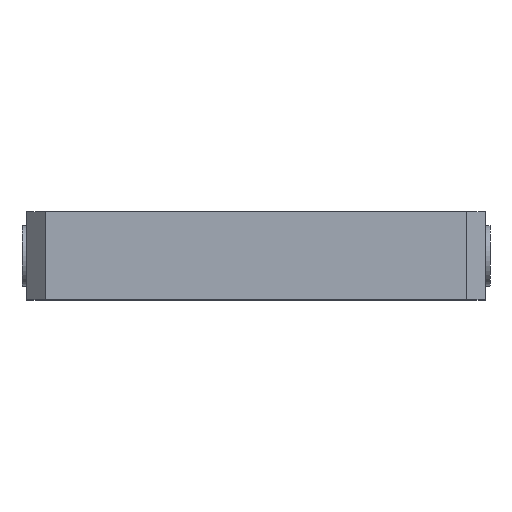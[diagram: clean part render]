
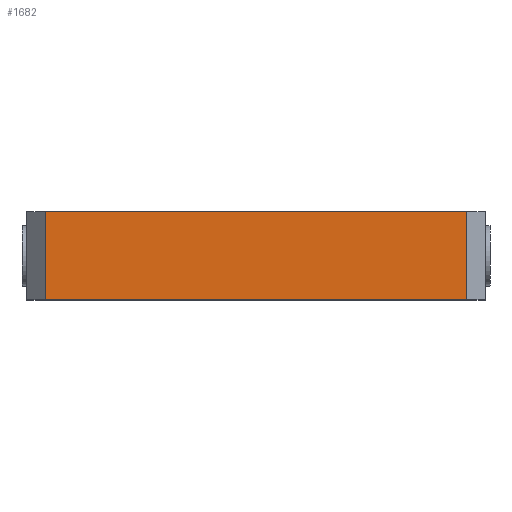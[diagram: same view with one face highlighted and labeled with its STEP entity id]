
A CAD part, top view. The second image highlights one B-rep face of the part: STEP entity #1682.
In plain terms, the highlighted planar face has unit normal (0, 0, 1).
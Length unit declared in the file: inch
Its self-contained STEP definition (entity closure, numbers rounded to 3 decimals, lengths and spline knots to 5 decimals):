
#371 = VERTEX_POINT ( 'NONE', #6308 ) ;
#567 = DIRECTION ( 'NONE',  ( 1., 0., 0. ) ) ;
#589 = CARTESIAN_POINT ( 'NONE',  ( 2.82087, 1.1811, 2.48031 ) ) ;
#615 = VECTOR ( 'NONE', #3749, 39.37008 ) ;
#853 = CARTESIAN_POINT ( 'NONE',  ( 2.82087, 0., 2.48031 ) ) ;
#989 = CARTESIAN_POINT ( 'NONE',  ( 2.82087, 1.1811, 2.48031 ) ) ;
#1353 = FACE_OUTER_BOUND ( 'NONE', #8948, .T. ) ;
#1493 = DIRECTION ( 'NONE',  ( 1., 0., 0. ) ) ;
#1682 = ADVANCED_FACE ( 'NONE', ( #1353 ), #5244, .F. ) ;
#1924 = CARTESIAN_POINT ( 'NONE',  ( -2.82087, 0., 2.48031 ) ) ;
#1999 = LINE ( 'NONE', #589, #615 ) ;
#2110 = EDGE_CURVE ( 'NONE', #371, #2549, #3350, .T. ) ;
#2231 = CARTESIAN_POINT ( 'NONE',  ( -3.07087, 0., 2.48031 ) ) ;
#2549 = VERTEX_POINT ( 'NONE', #1924 ) ;
#2758 = VERTEX_POINT ( 'NONE', #989 ) ;
#3007 = LINE ( 'NONE', #2231, #3765 ) ;
#3315 = AXIS2_PLACEMENT_3D ( 'NONE', #8198, #3779, #3638 ) ;
#3350 = LINE ( 'NONE', #6278, #7730 ) ;
#3528 = CARTESIAN_POINT ( 'NONE',  ( -3.07087, 1.1811, 2.48031 ) ) ;
#3638 = DIRECTION ( 'NONE',  ( -1., 0., 0. ) ) ;
#3749 = DIRECTION ( 'NONE',  ( 0., 1., 0. ) ) ;
#3765 = VECTOR ( 'NONE', #567, 39.37008 ) ;
#3779 = DIRECTION ( 'NONE',  ( 0., 0., -1. ) ) ;
#3930 = ORIENTED_EDGE ( 'NONE', *, *, #6695, .F. ) ;
#4503 = EDGE_CURVE ( 'NONE', #5828, #2758, #1999, .T. ) ;
#5244 = PLANE ( 'NONE',  #3315 ) ;
#5284 = ORIENTED_EDGE ( 'NONE', *, *, #4503, .T. ) ;
#5538 = DIRECTION ( 'NONE',  ( 0., -1., 0. ) ) ;
#5828 = VERTEX_POINT ( 'NONE', #853 ) ;
#6278 = CARTESIAN_POINT ( 'NONE',  ( -2.82087, 1.1811, 2.48031 ) ) ;
#6308 = CARTESIAN_POINT ( 'NONE',  ( -2.82087, 1.1811, 2.48031 ) ) ;
#6695 = EDGE_CURVE ( 'NONE', #371, #2758, #9477, .T. ) ;
#7306 = VECTOR ( 'NONE', #1493, 39.37008 ) ;
#7730 = VECTOR ( 'NONE', #5538, 39.37008 ) ;
#8169 = ORIENTED_EDGE ( 'NONE', *, *, #8508, .T. ) ;
#8198 = CARTESIAN_POINT ( 'NONE',  ( -3.07087, 1.1811, 2.48031 ) ) ;
#8508 = EDGE_CURVE ( 'NONE', #2549, #5828, #3007, .T. ) ;
#8948 = EDGE_LOOP ( 'NONE', ( #3930, #9054, #8169, #5284 ) ) ;
#9054 = ORIENTED_EDGE ( 'NONE', *, *, #2110, .T. ) ;
#9477 = LINE ( 'NONE', #3528, #7306 ) ;
